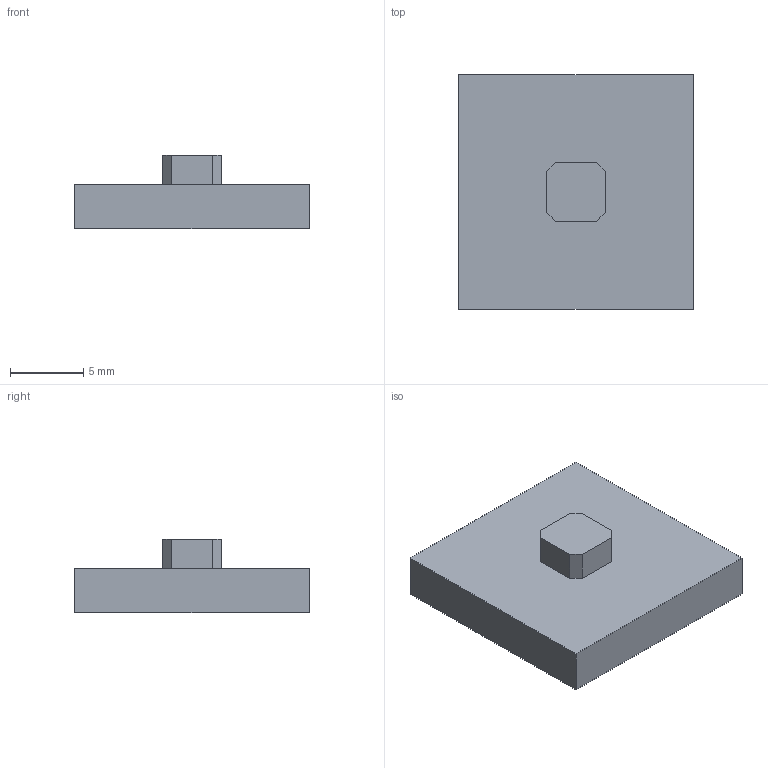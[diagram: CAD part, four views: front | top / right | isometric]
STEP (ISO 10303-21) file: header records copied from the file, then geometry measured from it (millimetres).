
FILE_DESCRIPTION(('Open CASCADE Model'),'2;1');
FILE_NAME('Open CASCADE Shape Model','2026-10-02T12:54:52',('Author'),( 'Open CASCADE'),'Open CASCADE STEP processor 7.8','Open CASCADE 7.8' ,'Unknown');
FILE_SCHEMA(('AUTOMOTIVE_DESIGN { 1 0 10303 214 1 1 1 1 }'));
Length unit declared in the file: millimetre
Products named in the file (1): Open CASCADE STEP translator 7.8 2
Bounding box: 16 x 16 x 5 mm (x, y, z)
Volume: 798.6 mm3; surface area: 733.2 mm2
Topology: 1 solids, 1 shells, 15 faces, 36 edges, 24 vertices
Faces by surface type: plane 15
Entity records: 892 total; most frequent: CARTESIAN_POINT 164, DIRECTION 124, LINE 92, VECTOR 92, ORIENTED_EDGE 72, PCURVE 72, DEFINITIONAL_REPRESENTATION 72, EDGE_CURVE 36
